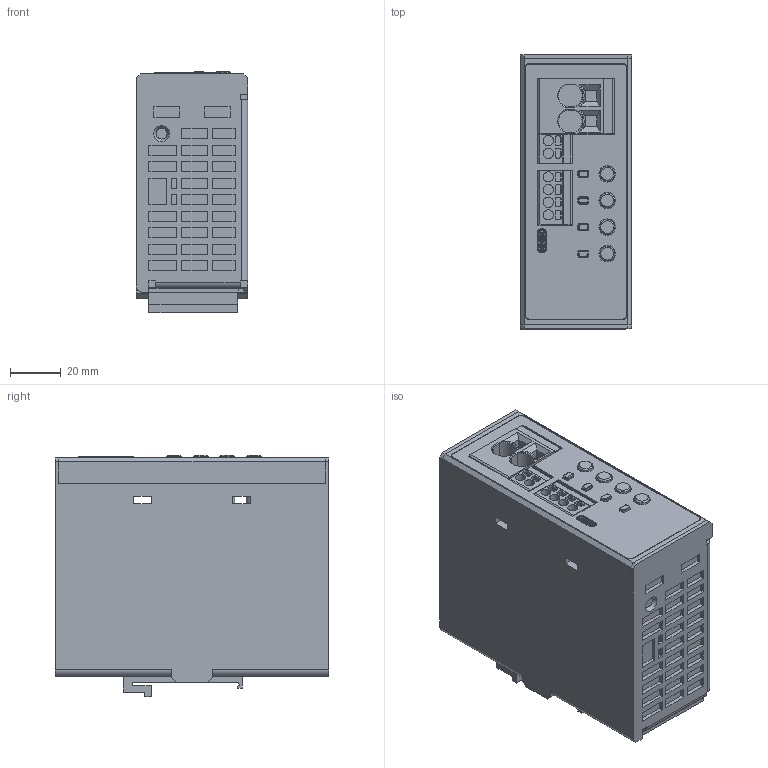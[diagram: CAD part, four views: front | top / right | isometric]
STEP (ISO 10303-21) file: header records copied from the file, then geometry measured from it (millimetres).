
FILE_DESCRIPTION(/* description */ (''),/* implementation_level */ '2;1');
FILE_NAME(/* name */ 'ECB-04.stp',/* time_stamp */ '2025-05-29T17:08:10+08:00',/* author */ (''),/* organization */ (''),/* preprocessor_version */ 'ST-DEVELOPER v16',/* originating_system */ 'SIEMENS PLM Software NX 10.0',/* authorisation */ '');
FILE_SCHEMA (('AUTOMOTIVE_DESIGN { 1 0 10303 214 3 1 1 1 }'));
Length unit declared in the file: millimetre
Products named in the file (1): chao696CA3B60m9y
Bounding box: 44 x 108 x 95.3 mm (x, y, z)
Volume: 417176.9 mm3; surface area: 75619.3 mm2
Topology: 16 solids, 17 shells, 1494 faces, 3949 edges, 2572 vertices
Faces by surface type: plane 1144, cylinder 273, bspline 35, cone 30, extrusion 12
Full cylindrical faces by diameter (mm): 3.4 x4, 4 x6, 6 x4, 6.5 x8
Entity records: 50653 total; most frequent: CARTESIAN_POINT 9321, ORIENTED_EDGE 7822, DIRECTION 7304, EDGE_CURVE 3911, VECTOR 3220, LINE 3208, VERTEX_POINT 2566, AXIS2_PLACEMENT_3D 2042
